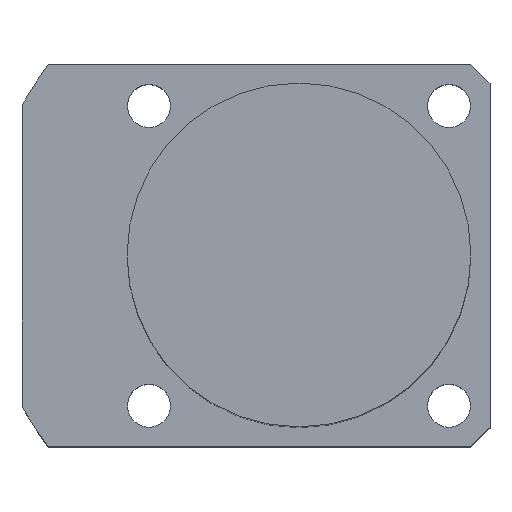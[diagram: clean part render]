
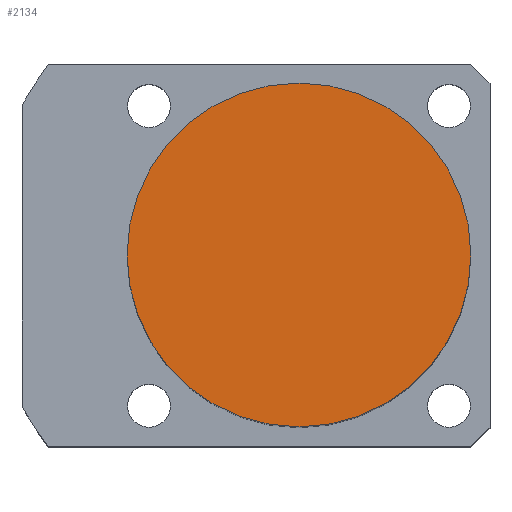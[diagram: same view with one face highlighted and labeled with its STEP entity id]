
A CAD part, top view. The second image highlights one B-rep face of the part: STEP entity #2134.
In plain terms, the highlighted planar face has unit normal (0, 0, 1).
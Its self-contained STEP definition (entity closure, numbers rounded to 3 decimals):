
#179 = CARTESIAN_POINT ( 'NONE',  ( 18., 0., 63.5 ) ) ;
#312 = EDGE_CURVE ( 'NONE', #1870, #336, #1852, .T. ) ;
#336 = VERTEX_POINT ( 'NONE', #179 ) ;
#345 = ORIENTED_EDGE ( 'NONE', *, *, #312, .T. ) ;
#378 = CARTESIAN_POINT ( 'NONE',  ( -18., 0., 63.5 ) ) ;
#501 = FACE_OUTER_BOUND ( 'NONE', #1572, .T. ) ;
#502 = EDGE_CURVE ( 'NONE', #336, #1870, #1164, .T. ) ;
#653 = CARTESIAN_POINT ( 'NONE',  ( 0., 0., 63.5 ) ) ;
#700 = AXIS2_PLACEMENT_3D ( 'NONE', #852, #2132, #1329 ) ;
#824 = DIRECTION ( 'NONE',  ( 1., 0., 0. ) ) ;
#849 = CARTESIAN_POINT ( 'NONE',  ( 0., 0., 63.5 ) ) ;
#852 = CARTESIAN_POINT ( 'NONE',  ( 0., 0., 63.5 ) ) ;
#1014 = DIRECTION ( 'NONE',  ( 1., 0., 0. ) ) ;
#1018 = AXIS2_PLACEMENT_3D ( 'NONE', #653, #1313, #824 ) ;
#1164 = CIRCLE ( 'NONE', #1018, 18. ) ;
#1313 = DIRECTION ( 'NONE',  ( 0., 0., 1. ) ) ;
#1329 = DIRECTION ( 'NONE',  ( 1., 0., 0. ) ) ;
#1572 = EDGE_LOOP ( 'NONE', ( #345, #2040 ) ) ;
#1816 = PLANE ( 'NONE',  #1927 ) ;
#1852 = CIRCLE ( 'NONE', #700, 18. ) ;
#1870 = VERTEX_POINT ( 'NONE', #378 ) ;
#1927 = AXIS2_PLACEMENT_3D ( 'NONE', #849, #2005, #1014 ) ;
#2005 = DIRECTION ( 'NONE',  ( 0., 0., 1. ) ) ;
#2040 = ORIENTED_EDGE ( 'NONE', *, *, #502, .T. ) ;
#2132 = DIRECTION ( 'NONE',  ( 0., 0., 1. ) ) ;
#2134 = ADVANCED_FACE ( 'NONE', ( #501 ), #1816, .T. ) ;
